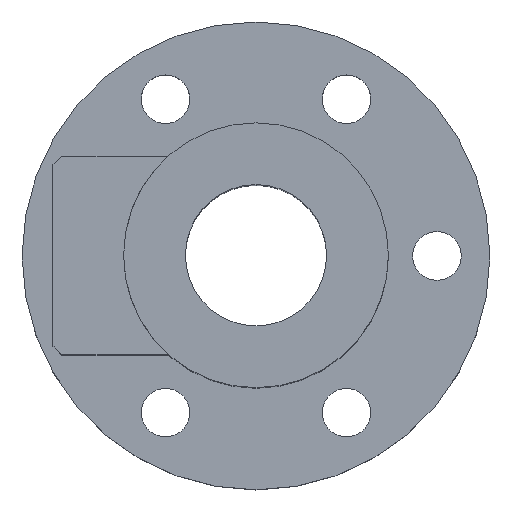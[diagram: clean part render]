
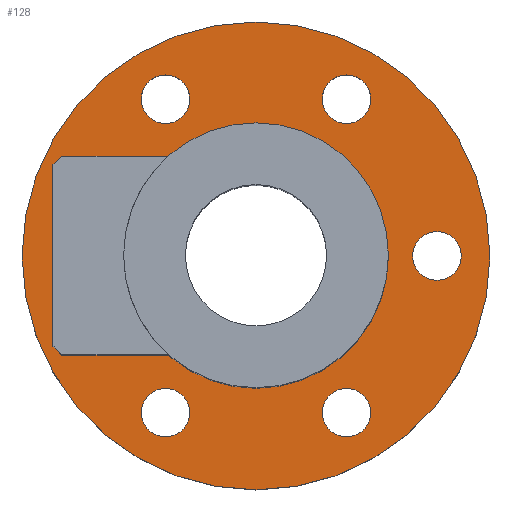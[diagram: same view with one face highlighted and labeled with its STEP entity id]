
A CAD part, top view. The second image highlights one B-rep face of the part: STEP entity #128.
In plain terms, the highlighted planar face has unit normal (0, 0, 1).
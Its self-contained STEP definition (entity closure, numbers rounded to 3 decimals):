
#97=PLANE('',#515);
#112=FACE_OUTER_BOUND('',#251,.T.);
#128=ADVANCED_FACE('',(#203,#204,#205,#112,#206,#207,#208),#97,.T.);
#203=FACE_BOUND('',#248,.T.);
#204=FACE_BOUND('',#249,.T.);
#205=FACE_BOUND('',#250,.T.);
#206=FACE_BOUND('',#252,.T.);
#207=FACE_BOUND('',#253,.T.);
#208=FACE_BOUND('',#254,.T.);
#248=EDGE_LOOP('',(#311));
#249=EDGE_LOOP('',(#312));
#250=EDGE_LOOP('',(#313));
#251=EDGE_LOOP('',(#314));
#252=EDGE_LOOP('',(#315));
#253=EDGE_LOOP('',(#316));
#254=EDGE_LOOP('',(#317));
#311=ORIENTED_EDGE('',*,*,#437,.F.);
#312=ORIENTED_EDGE('',*,*,#438,.F.);
#313=ORIENTED_EDGE('',*,*,#432,.F.);
#314=ORIENTED_EDGE('',*,*,#439,.T.);
#315=ORIENTED_EDGE('',*,*,#440,.F.);
#316=ORIENTED_EDGE('',*,*,#441,.F.);
#317=ORIENTED_EDGE('',*,*,#442,.F.);
#394=VERTEX_POINT('',#694);
#399=VERTEX_POINT('',#705);
#400=VERTEX_POINT('',#707);
#401=VERTEX_POINT('',#709);
#402=VERTEX_POINT('',#711);
#403=VERTEX_POINT('',#713);
#404=VERTEX_POINT('',#715);
#432=EDGE_CURVE('',#394,#394,#476,.T.);
#437=EDGE_CURVE('',#399,#399,#479,.T.);
#438=EDGE_CURVE('',#400,#400,#480,.T.);
#439=EDGE_CURVE('',#401,#401,#481,.T.);
#440=EDGE_CURVE('',#402,#402,#482,.T.);
#441=EDGE_CURVE('',#403,#403,#483,.T.);
#442=EDGE_CURVE('',#404,#404,#484,.T.);
#476=CIRCLE('',#505,15.);
#479=CIRCLE('',#509,2.75);
#480=CIRCLE('',#510,2.75);
#481=CIRCLE('',#511,26.5);
#482=CIRCLE('',#512,2.75);
#483=CIRCLE('',#513,2.75);
#484=CIRCLE('',#514,2.75);
#505=AXIS2_PLACEMENT_3D('',#693,#564,#565);
#509=AXIS2_PLACEMENT_3D('',#704,#574,#575);
#510=AXIS2_PLACEMENT_3D('',#706,#576,#577);
#511=AXIS2_PLACEMENT_3D('',#708,#578,#579);
#512=AXIS2_PLACEMENT_3D('',#710,#580,#581);
#513=AXIS2_PLACEMENT_3D('',#712,#582,#583);
#514=AXIS2_PLACEMENT_3D('',#714,#584,#585);
#515=AXIS2_PLACEMENT_3D('',#716,#586,#587);
#564=DIRECTION('',(0.,0.,1.));
#565=DIRECTION('',(1.,0.,0.));
#574=DIRECTION('',(0.,0.,1.));
#575=DIRECTION('',(-0.5,-0.866,0.));
#576=DIRECTION('',(0.,0.,1.));
#577=DIRECTION('',(0.5,0.866,0.));
#578=DIRECTION('',(0.,0.,1.));
#579=DIRECTION('',(1.,0.,0.));
#580=DIRECTION('',(0.,0.,1.));
#581=DIRECTION('',(1.,0.,0.));
#582=DIRECTION('',(0.,0.,1.));
#583=DIRECTION('',(-1.,0.,0.));
#584=DIRECTION('',(0.,0.,1.));
#585=DIRECTION('',(0.5,-0.866,0.));
#586=DIRECTION('',(0.,0.,1.));
#587=DIRECTION('',(1.,0.,0.));
#693=CARTESIAN_POINT('',(0.,0.,10.));
#694=CARTESIAN_POINT('',(15.,0.,10.));
#704=CARTESIAN_POINT('',(10.25,-17.754,10.));
#705=CARTESIAN_POINT('',(8.875,-20.135,10.));
#706=CARTESIAN_POINT('',(-10.25,17.754,10.));
#707=CARTESIAN_POINT('',(-8.875,20.135,10.));
#708=CARTESIAN_POINT('',(0.,0.,10.));
#709=CARTESIAN_POINT('',(26.5,0.,10.));
#710=CARTESIAN_POINT('',(10.25,17.754,10.));
#711=CARTESIAN_POINT('',(13.,17.754,10.));
#712=CARTESIAN_POINT('',(-10.25,-17.754,10.));
#713=CARTESIAN_POINT('',(-13.,-17.754,10.));
#714=CARTESIAN_POINT('',(20.5,0.,10.));
#715=CARTESIAN_POINT('',(21.875,-2.382,10.));
#716=CARTESIAN_POINT('',(0.,0.,10.));
